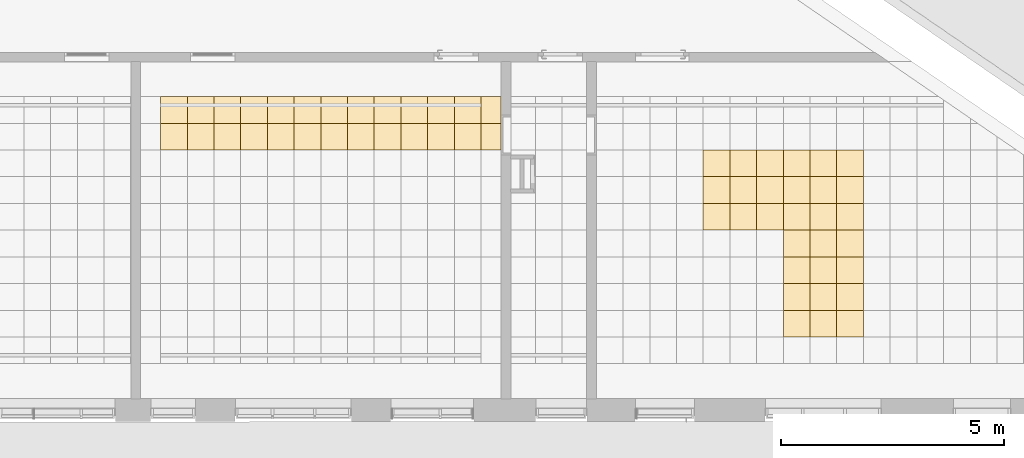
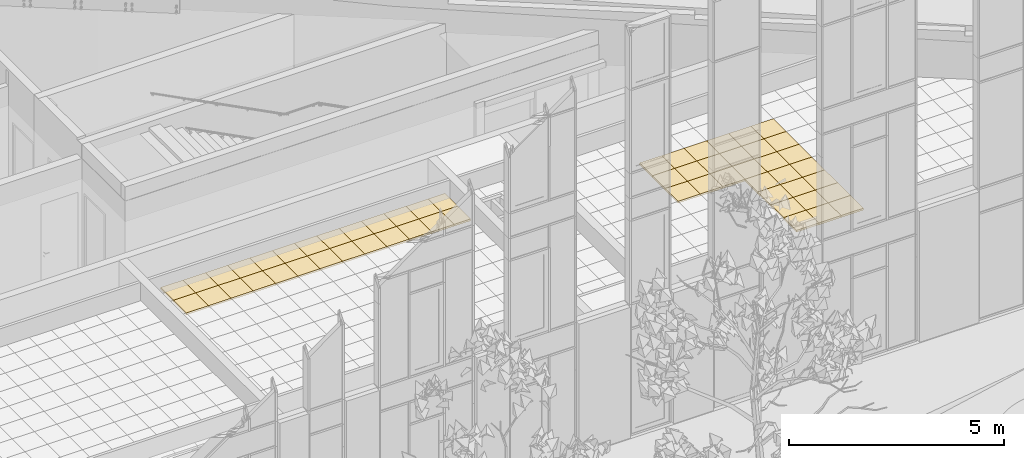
# One storey, part 197 of 246: 56 coverings.
"""IFC2X3 building model written with IfcOpenShell, lengths in millimetres."""

import ifcopenshell
import ifcopenshell.guid

model = None  # the IFC model being written
_history = None  # IfcOwnerHistory: only IFC2X3 demands one
_inside = {}  # id of a spatial element -> (the spatial element, [elements in it])
_under = {}  # id of a project, library or spatial element -> (it, [spatial elements below it])
_declared = {}  # id of a project -> (the project, [libraries it declares])
_typed = {}  # id of a type object -> (the type object, [elements of that type])
_made_of = {}  # id of a material, layer set ... -> (it, [elements and type objects made of it])


def new_model(schema):
    """Start an empty IFC model of exactly this schema.

    Asked for "IFC4X3", IfcOpenShell would pick the latest addendum, in which some entities
    have other attributes; the version numbers below select the first issue.
    IFC2X3 requires an IfcOwnerHistory on every rooted entity: one is made here for all.
    """
    global model, _history
    if schema == "IFC4X3":
        model = ifcopenshell.file(schema_version=(4, 3, 0, 0))
    else:
        model = ifcopenshell.file(schema=schema)
    _inside.clear()
    _under.clear()
    _declared.clear()
    _typed.clear()
    _made_of.clear()
    _history = None
    if model.schema == "IFC2X3":
        org = make("IfcOrganization", Name="unknown")
        user = make(
            "IfcPersonAndOrganization",
            ThePerson=make("IfcPerson", FamilyName="unknown"),
            TheOrganization=org,
        )
        app = make(
            "IfcApplication",
            ApplicationDeveloper=org,
            Version="unknown",
            ApplicationFullName="unknown",
            ApplicationIdentifier="unknown",
        )
        _history = make(
            "IfcOwnerHistory",
            OwningUser=user,
            OwningApplication=app,
            ChangeAction="ADDED",
            CreationDate=0,
        )
    return model


def make(cls, **values):
    """One entity of the class cls with the attributes given. An attribute that is None is left unset."""
    return model.create_entity(
        cls, **{name: value for name, value in values.items() if value is not None}
    )


def entity(cls, *values):
    """Any entity or typed value of the class cls, its attributes in the order of the schema. None: left unset."""
    e = model.create_entity(cls)
    for i, value in enumerate(values):
        if value is not None:
            e[i] = value
    return e


def rooted(cls, **values):
    """An entity with a GlobalId (a new one), such as an element, a storey or a relation."""
    return make(cls, GlobalId=ifcopenshell.guid.new(), OwnerHistory=_history, **values)


def si_unit(unit_type, name, prefix=None):
    """IfcSIUnit, for example si_unit("LENGTHUNIT", "METRE", prefix="MILLI")."""
    return make("IfcSIUnit", UnitType=unit_type, Prefix=prefix, Name=name)


def converted_unit(unit_type, name, factor, base, dimensions=None, offset=None):
    """IfcConversionBasedUnit, such as the inch: factor (a typed value) times the base unit."""
    return make(
        "IfcConversionBasedUnit"
        if offset is None
        else "IfcConversionBasedUnitWithOffset",
        ConversionOffset=offset,
        Dimensions=None
        if dimensions is None
        else entity("IfcDimensionalExponents", *dimensions),
        UnitType=unit_type,
        Name=name,
        ConversionFactor=make(
            "IfcMeasureWithUnit", ValueComponent=factor, UnitComponent=base
        ),
    )


def derived_unit(unit_type, elements):
    """IfcDerivedUnit: a product of units, each with its exponent."""
    return make(
        "IfcDerivedUnit",
        Elements=[
            make("IfcDerivedUnitElement", Unit=unit, Exponent=power)
            for unit, power in elements
        ],
        UnitType=unit_type,
    )


def money_unit(currency):
    """IfcMonetaryUnit."""
    return make("IfcMonetaryUnit", Currency=currency)


def assignment(units):
    """IfcUnitAssignment: the units of a project."""
    return None if units is None else make("IfcUnitAssignment", Units=units)


def point(xyz):
    """IfcCartesianPoint."""
    return None if xyz is None else make("IfcCartesianPoint", Coordinates=xyz)


def direction(xyz):
    """IfcDirection."""
    return None if xyz is None else make("IfcDirection", DirectionRatios=xyz)


def frame(location, z_axis=None, x_axis=None):
    """IfcAxis2Placement3D, a coordinate frame: its origin and axes. An axis left out is left unset."""
    return make(
        "IfcAxis2Placement3D",
        Location=point(location),
        Axis=direction(z_axis),
        RefDirection=direction(x_axis),
    )


def origin_with_axes():
    """The frame at (0, 0, 0) with the z axis (0, 0, 1) and the x axis (1, 0, 0) written out."""
    return frame((0.0, 0.0, 0.0), z_axis=(0.0, 0.0, 1.0), x_axis=(1.0, 0.0, 0.0))


def place(relative_to, where):
    """IfcLocalPlacement: puts the frame where relative to a parent placement (None: the world)."""
    return make(
        "IfcLocalPlacement", PlacementRelTo=relative_to, RelativePlacement=where
    )


def context(
    kind, dimensions, precision=None, world=None, true_north=None, identifier=None
):
    """IfcGeometricRepresentationContext, for example the 3D "Model" context."""
    return make(
        "IfcGeometricRepresentationContext",
        ContextIdentifier=identifier,
        ContextType=kind,
        CoordinateSpaceDimension=dimensions,
        Precision=precision,
        WorldCoordinateSystem=world,
        TrueNorth=true_north,
    )


def subcontext(parent, identifier, kind, view, scale=None):
    """IfcGeometricRepresentationSubContext, for example "Body" below "Model"."""
    return make(
        "IfcGeometricRepresentationSubContext",
        ContextIdentifier=identifier,
        ContextType=kind,
        ParentContext=parent,
        TargetScale=scale,
        TargetView=view,
    )


def project(units=None, contexts=None):
    """IfcProject with its units and contexts."""
    return rooted(
        "IfcProject",
        Name="project",
        RepresentationContexts=contexts,
        UnitsInContext=assignment(units),
    )


def spatial(cls, under=None, at=None, **own):
    """A site, building, storey or space (cls), placed at a placement, below another one or the project."""
    s = rooted(cls, ObjectPlacement=at, **own)
    if under is not None:
        _under.setdefault(under.id(), (under, []))[1].append(s)
    return s


def faces_of(points, faces, orient=None, outer=None):
    """IfcFace entities. A face is a list of loops; a loop is a list of indices into points, from 0.

    orient and outer hold one flag for each loop. By default every Orientation is true, the
    first loop of a face is its IfcFaceOuterBound and the others are IfcFaceBound.
    """
    made = []
    for i, loops in enumerate(faces):
        bounds = []
        for j, loop in enumerate(loops):
            is_outer = j == 0 if outer is None else outer[i][j]
            bounds.append(
                make(
                    "IfcFaceOuterBound" if is_outer else "IfcFaceBound",
                    Bound=make("IfcPolyLoop", Polygon=[points[k] for k in loop]),
                    Orientation=True if orient is None else orient[i][j],
                )
            )
        made.append(make("IfcFace", Bounds=bounds))
    return made


def faceted_brep(points, faces, orient=None, outer=None, voids=None):
    """IfcFacetedBrep: a solid bounded by flat faces; with voids (closed shells), ...WithVoids."""
    shared = [point(p) for p in points]
    hull = make("IfcClosedShell", CfsFaces=faces_of(shared, faces, orient, outer))
    if voids is None:
        return make("IfcFacetedBrep", Outer=hull)
    return make(
        "IfcFacetedBrepWithVoids",
        Outer=hull,
        Voids=[
            make(cls, CfsFaces=faces_of(shared, fs, o, b)) for cls, fs, o, b in voids
        ],
    )


def shape(context_of_items, identifier, shape_type, items):
    """IfcShapeRepresentation: the items that make up one representation, for example the "Body"."""
    return make(
        "IfcShapeRepresentation",
        ContextOfItems=context_of_items,
        RepresentationIdentifier=identifier,
        RepresentationType=shape_type,
        Items=items,
    )


def material(Name=None, Category=None):
    """IfcMaterial."""
    return make("IfcMaterial", Name=Name, Category=Category)


def material_list(materials):
    """IfcMaterialList."""
    return make("IfcMaterialList", Materials=materials)


def made_of(thing, what):
    """Note that an element or type object is made of a material, layer set ...; save() writes the relation."""
    if what is not None:
        _made_of.setdefault(what.id(), (what, []))[1].append(thing)
    return thing


def type_object(cls, material=None, **own):
    """A type object (cls), such as IfcWallType, which elements share."""
    return made_of(rooted(cls, **own), material)


def element(
    cls,
    number,
    at=None,
    inside=None,
    cuts=None,
    type_object=None,
    material=None,
    context=None,
    identifier="Body",
    shape_type=None,
    held_by="IfcProductDefinitionShape",
    body=None,
    shapes=None,
    **own,
):
    """One element of the class cls, such as IfcWall. Its Tag is "e" and its number.

    at: its placement. inside: the storey or other place that contains it. cuts: it is an
    opening in that element (IfcRelVoidsElement). A single representation is given by context,
    identifier, shape_type and body (its items); several are given by shapes. held_by: the class
    of the entity that holds the representations. save() writes the other relations.
    """
    e = rooted(cls, Tag="e%d" % number, ObjectPlacement=at, **own)
    if body is not None:
        shapes = [shape(context, identifier, shape_type, body)]
    if shapes is not None:
        e.Representation = make(held_by, Representations=shapes)
    if inside is not None:
        _inside.setdefault(inside.id(), (inside, []))[1].append(e)
    if cuts is not None:
        rooted(
            "IfcRelVoidsElement", RelatingBuildingElement=cuts, RelatedOpeningElement=e
        )
    if type_object is not None:
        _typed.setdefault(type_object.id(), (type_object, []))[1].append(e)
    return made_of(e, material)


def aggregate(whole, parts):
    """IfcRelAggregates: a whole, such as a stair, and the parts it consists of."""
    return rooted("IfcRelAggregates", RelatingObject=whole, RelatedObjects=parts)


def save(model, path):
    """Write the relations noted so far, then the file.

    IfcRelAggregates (storeys below a building ...), IfcRelContainedInSpatialStructure (elements
    in a storey), IfcRelDefinesByType, IfcRelAssociatesMaterial and IfcRelDeclares: one each for
    every whole, place, type object, material and project.
    """
    for whole, parts in _under.values():
        aggregate(whole, parts)
    for where, things in _inside.values():
        rooted(
            "IfcRelContainedInSpatialStructure",
            RelatedElements=things,
            RelatingStructure=where,
        )
    for kind, things in _typed.values():
        rooted("IfcRelDefinesByType", RelatedObjects=things, RelatingType=kind)
    for what, things in _made_of.values():
        rooted("IfcRelAssociatesMaterial", RelatedObjects=things, RelatingMaterial=what)
    for by, libraries in _declared.values():
        rooted("IfcRelDeclares", RelatingContext=by, RelatedDefinitions=libraries)
    model.write(path)


model = new_model("IFC2X3")

# Units and contexts
model_context = context("Model", 3, precision=0.01, world=origin_with_axes(), true_north=direction((0.0, 1.0)))
body_context = subcontext(model_context, "Body", "Model", "MODEL_VIEW")
ifc_project = project(units=[si_unit("LENGTHUNIT", "METRE", prefix="MILLI"), si_unit("AREAUNIT", "SQUARE_METRE"), si_unit("VOLUMEUNIT", "CUBIC_METRE"), converted_unit("PLANEANGLEUNIT", "DEGREE", entity("IfcPlaneAngleMeasure", 0.0174532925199), si_unit("PLANEANGLEUNIT", "RADIAN"), dimensions=[0, 0, 0, 0, 0, 0, 0]), si_unit("SOLIDANGLEUNIT", "STERADIAN"), money_unit("EUR"), converted_unit("TIMEUNIT", "Year", entity("IfcTimeMeasure", 31556926.0), si_unit("TIMEUNIT", "SECOND"), dimensions=[0, 0, 1, 0, 0, 0, 0]), si_unit("MASSUNIT", "GRAM", prefix="KILO"), si_unit("THERMODYNAMICTEMPERATUREUNIT", "DEGREE_CELSIUS"), si_unit("LUMINOUSINTENSITYUNIT", "LUMEN"), si_unit("ENERGYUNIT", "JOULE", prefix="MEGA"), derived_unit("THERMALCONDUCTANCEUNIT", [(si_unit("POWERUNIT", "WATT"), 1), (si_unit("LENGTHUNIT", "METRE"), -1), (si_unit("THERMODYNAMICTEMPERATUREUNIT", "KELVIN"), -1)]), derived_unit("SPECIFICHEATCAPACITYUNIT", [(si_unit("ENERGYUNIT", "JOULE"), 1), (si_unit("MASSUNIT", "GRAM", prefix="KILO"), -1), (si_unit("THERMODYNAMICTEMPERATUREUNIT", "KELVIN"), -1)]), derived_unit("MASSDENSITYUNIT", [(si_unit("MASSUNIT", "GRAM", prefix="KILO"), 1), (si_unit("VOLUMEUNIT", "CUBIC_METRE"), -1)])], contexts=[model_context])

# Site, building, storey
site_placement = place(None, origin_with_axes())
site = spatial("IfcSite", under=ifc_project, at=site_placement, Name="L.Koidula tn 11b", CompositionType="ELEMENT")
building_placement = place(site_placement, origin_with_axes())
building = spatial("IfcBuilding", under=site, at=building_placement, Name="Rakvere Riigigümnaasium", CompositionType="ELEMENT")
storey_placement = place(building_placement, origin_with_axes())
storey = spatial("IfcBuildingStorey", under=building, at=storey_placement, Name="1.korrus 0,00", CompositionType="ELEMENT", Elevation=0.0)

# Coverings
ifc_material_1 = material(Name="Karkass")
ifc_material_2 = material(Name="Kipsplaat")
ifc_material_list = material_list([ifc_material_1, ifc_material_2])
covering_type = type_object("IfcCoveringType", Name="SA-LV-Kips-moodul 55", PredefinedType="CEILING")
for number, where, z_axis, x_axis, name in (
    (1, (75319.7152091, 11090.4535941, 2750.0), (0.0, 0.0, 1.0), (1.0, 0.0, 0.0), "L-03"),
    (2, (75319.7152091, 11690.4535941, 2750.0), (0.0, 0.0, 1.0), (1.0, 0.0, 0.0), "L-03"),
    (3, (76519.7151574, 11090.4535941, 2750.0), (0.0, 0.0, 1.0), (1.0, 0.0, 0.0), "L-03"),
    (4, (76519.7151574, 11690.4535941, 2750.0), (0.0, 0.0, 1.0), (1.0, 0.0, 0.0), "L-03"),
):
    element("IfcCovering", number, at=place(storey_placement, frame(where, z_axis=z_axis, x_axis=x_axis)), inside=storey, type_object=covering_type, material=ifc_material_list, Name=name, PredefinedType="CEILING", context=body_context, shape_type="Brep", body=[
        faceted_brep([(599.999948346, 0.0, 12.5), (599.999948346, 0.0, 54.5), (0.0, 0.0, 54.5), (0.0, 0.0, 12.5), (599.999948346, 600.0, 12.5), (599.999948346, 600.0, 54.5), (0.0, 600.0, 54.5), (0.0, 600.0, 12.5)], [[[0, 1, 2, 3]], [[4, 5, 1, 0]], [[2, 1, 5, 6]], [[3, 2, 6, 7]], [[3, 7, 4, 0]], [[7, 6, 5, 4]]]),
        faceted_brep([(0.0, 0.0, 0.0), (599.999948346, 0.0, 0.0), (599.999948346, 0.0, 12.5), (0.0, 0.0, 12.5), (0.0, 600.0, 0.0), (599.999948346, 600.0, 0.0), (599.999948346, 600.0, 12.5), (0.0, 600.0, 12.5)], [[[0, 1, 2, 3]], [[0, 4, 5, 1]], [[1, 5, 6, 2]], [[3, 2, 6, 7]], [[4, 0, 3, 7]], [[5, 4, 7, 6]]]),
    ])
for number, where, z_axis, x_axis, name in (
    (5, (75919.7151574, 11090.4535941, 2750.0), (0.0, 0.0, 1.0), (1.0, 0.0, 0.0), "L-03"),
    (6, (75919.7151574, 11690.4535941, 2750.0), (0.0, 0.0, 1.0), (1.0, 0.0, 0.0), "L-03"),
):
    element("IfcCovering", number, at=place(storey_placement, frame(where, z_axis=z_axis, x_axis=x_axis)), inside=storey, type_object=covering_type, material=ifc_material_list, Name=name, PredefinedType="CEILING", context=body_context, shape_type="Brep", body=[
        faceted_brep([(600.0, 0.0, 12.5), (600.0, 0.0, 54.5), (0.0, 0.0, 54.5), (0.0, 0.0, 12.5), (600.0, 600.0, 12.5), (600.0, 600.0, 54.5), (0.0, 600.0, 54.5), (0.0, 600.0, 12.5)], [[[0, 1, 2, 3]], [[4, 5, 1, 0]], [[2, 1, 5, 6]], [[3, 2, 6, 7]], [[3, 7, 4, 0]], [[7, 6, 5, 4]]]),
        faceted_brep([(0.0, 0.0, 0.0), (600.0, 0.0, 0.0), (600.0, 0.0, 12.5), (0.0, 0.0, 12.5), (0.0, 600.0, 0.0), (600.0, 600.0, 0.0), (600.0, 600.0, 12.5), (0.0, 600.0, 12.5)], [[[0, 1, 2, 3]], [[0, 4, 5, 1]], [[1, 5, 6, 2]], [[3, 2, 6, 7]], [[4, 0, 3, 7]], [[5, 4, 7, 6]]]),
    ])
for number, where, z_axis, x_axis, name in (
    (7, (77719.7151058, 11090.4535941, 2750.0), (0.0, 0.0, 1.0), (1.0, 0.0, 0.0), "L-03"),
    (8, (77719.7151058, 11690.4535941, 2750.0), (0.0, 0.0, 1.0), (1.0, 0.0, 0.0), "L-03"),
):
    element("IfcCovering", number, at=place(storey_placement, frame(where, z_axis=z_axis, x_axis=x_axis)), inside=storey, type_object=covering_type, material=ifc_material_list, Name=name, PredefinedType="CEILING", context=body_context, shape_type="Brep", body=[
        faceted_brep([(599.999948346, 0.0, 12.5), (599.999948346, 0.0, 54.5), (0.0, 0.0, 54.5), (0.0, 0.0, 12.5), (599.999948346, 600.0, 12.5), (599.999948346, 600.0, 54.5), (0.0, 600.0, 54.5), (0.0, 600.0, 12.5)], [[[0, 1, 2, 3]], [[4, 5, 1, 0]], [[2, 1, 5, 6]], [[3, 2, 6, 7]], [[3, 7, 4, 0]], [[7, 6, 5, 4]]]),
        faceted_brep([(0.0, 0.0, 0.0), (599.999948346, 0.0, 0.0), (599.999948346, 0.0, 12.5), (0.0, 0.0, 12.5), (0.0, 600.0, 0.0), (599.999948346, 600.0, 0.0), (599.999948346, 600.0, 12.5), (0.0, 600.0, 12.5)], [[[0, 1, 2, 3]], [[0, 4, 5, 1]], [[1, 5, 6, 2]], [[3, 2, 6, 7]], [[4, 0, 3, 7]], [[5, 4, 7, 6]]]),
    ])
for number, where, z_axis, x_axis, name in (
    (9, (77119.7151058, 11090.4535941, 2750.0), (0.0, 0.0, 1.0), (1.0, 0.0, 0.0), "L-03"),
    (10, (77119.7151058, 11690.4535941, 2750.0), (0.0, 0.0, 1.0), (1.0, 0.0, 0.0), "L-03"),
):
    element("IfcCovering", number, at=place(storey_placement, frame(where, z_axis=z_axis, x_axis=x_axis)), inside=storey, type_object=covering_type, material=ifc_material_list, Name=name, PredefinedType="CEILING", context=body_context, shape_type="Brep", body=[
        faceted_brep([(600.0, 0.0, 12.5), (600.0, 0.0, 54.5), (0.0, 0.0, 54.5), (0.0, 0.0, 12.5), (600.0, 600.0, 12.5), (600.0, 600.0, 54.5), (0.0, 600.0, 54.5), (0.0, 600.0, 12.5)], [[[0, 1, 2, 3]], [[4, 5, 1, 0]], [[2, 1, 5, 6]], [[3, 2, 6, 7]], [[3, 7, 4, 0]], [[7, 6, 5, 4]]]),
        faceted_brep([(0.0, 0.0, 0.0), (600.0, 0.0, 0.0), (600.0, 0.0, 12.5), (0.0, 0.0, 12.5), (0.0, 600.0, 0.0), (600.0, 600.0, 0.0), (600.0, 600.0, 12.5), (0.0, 600.0, 12.5)], [[[0, 1, 2, 3]], [[0, 4, 5, 1]], [[1, 5, 6, 2]], [[3, 2, 6, 7]], [[4, 0, 3, 7]], [[5, 4, 7, 6]]]),
    ])
for number, where, z_axis, x_axis, name in (
    (11, (78919.7150541, 11090.4535941, 2750.0), (0.0, 0.0, 1.0), (1.0, 0.0, 0.0), "L-03"),
    (12, (78919.7150541, 11690.4535941, 2750.0), (0.0, 0.0, 1.0), (1.0, 0.0, 0.0), "L-03"),
):
    element("IfcCovering", number, at=place(storey_placement, frame(where, z_axis=z_axis, x_axis=x_axis)), inside=storey, type_object=covering_type, material=ifc_material_list, Name=name, PredefinedType="CEILING", context=body_context, shape_type="Brep", body=[
        faceted_brep([(599.999948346, 0.0, 12.5), (599.999948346, 0.0, 54.5), (0.0, 0.0, 54.5), (0.0, 0.0, 12.5), (599.999948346, 600.0, 12.5), (599.999948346, 600.0, 54.5), (0.0, 600.0, 54.5), (0.0, 600.0, 12.5)], [[[0, 1, 2, 3]], [[4, 5, 1, 0]], [[2, 1, 5, 6]], [[3, 2, 6, 7]], [[3, 7, 4, 0]], [[7, 6, 5, 4]]]),
        faceted_brep([(0.0, 0.0, 0.0), (599.999948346, 0.0, 0.0), (599.999948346, 0.0, 12.5), (0.0, 0.0, 12.5), (0.0, 600.0, 0.0), (599.999948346, 600.0, 0.0), (599.999948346, 600.0, 12.5), (0.0, 600.0, 12.5)], [[[0, 1, 2, 3]], [[0, 4, 5, 1]], [[1, 5, 6, 2]], [[3, 2, 6, 7]], [[4, 0, 3, 7]], [[5, 4, 7, 6]]]),
    ])
for number, where, z_axis, x_axis, name in (
    (13, (78319.7150541, 11090.4535941, 2750.0), (0.0, 0.0, 1.0), (1.0, 0.0, 0.0), "L-03"),
    (14, (78319.7150541, 11690.4535941, 2750.0), (0.0, 0.0, 1.0), (1.0, 0.0, 0.0), "L-03"),
):
    element("IfcCovering", number, at=place(storey_placement, frame(where, z_axis=z_axis, x_axis=x_axis)), inside=storey, type_object=covering_type, material=ifc_material_list, Name=name, PredefinedType="CEILING", context=body_context, shape_type="Brep", body=[
        faceted_brep([(600.0, 0.0, 12.5), (600.0, 0.0, 54.5), (0.0, 0.0, 54.5), (0.0, 0.0, 12.5), (600.0, 600.0, 12.5), (600.0, 600.0, 54.5), (0.0, 600.0, 54.5), (0.0, 600.0, 12.5)], [[[0, 1, 2, 3]], [[4, 5, 1, 0]], [[2, 1, 5, 6]], [[3, 2, 6, 7]], [[3, 7, 4, 0]], [[7, 6, 5, 4]]]),
        faceted_brep([(0.0, 0.0, 0.0), (600.0, 0.0, 0.0), (600.0, 0.0, 12.5), (0.0, 0.0, 12.5), (0.0, 600.0, 0.0), (600.0, 600.0, 0.0), (600.0, 600.0, 12.5), (0.0, 600.0, 12.5)], [[[0, 1, 2, 3]], [[0, 4, 5, 1]], [[1, 5, 6, 2]], [[3, 2, 6, 7]], [[4, 0, 3, 7]], [[5, 4, 7, 6]]]),
    ])
for number, where, z_axis, x_axis, name in (
    (15, (80119.7150025, 11090.4535941, 2750.0), (0.0, 0.0, 1.0), (1.0, 0.0, 0.0), "L-03"),
    (16, (80119.7150025, 11690.4535941, 2750.0), (0.0, 0.0, 1.0), (1.0, 0.0, 0.0), "L-03"),
):
    element("IfcCovering", number, at=place(storey_placement, frame(where, z_axis=z_axis, x_axis=x_axis)), inside=storey, type_object=covering_type, material=ifc_material_list, Name=name, PredefinedType="CEILING", context=body_context, shape_type="Brep", body=[
        faceted_brep([(599.999948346, 0.0, 12.5), (599.999948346, 0.0, 54.5), (0.0, 0.0, 54.5), (0.0, 0.0, 12.5), (599.999948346, 600.0, 12.5), (599.999948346, 600.0, 54.5), (0.0, 600.0, 54.5), (0.0, 600.0, 12.5)], [[[0, 1, 2, 3]], [[4, 5, 1, 0]], [[2, 1, 5, 6]], [[3, 2, 6, 7]], [[3, 7, 4, 0]], [[7, 6, 5, 4]]]),
        faceted_brep([(0.0, 0.0, 0.0), (599.999948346, 0.0, 0.0), (599.999948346, 0.0, 12.5), (0.0, 0.0, 12.5), (0.0, 600.0, 0.0), (599.999948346, 600.0, 0.0), (599.999948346, 600.0, 12.5), (0.0, 600.0, 12.5)], [[[0, 1, 2, 3]], [[0, 4, 5, 1]], [[1, 5, 6, 2]], [[3, 2, 6, 7]], [[4, 0, 3, 7]], [[5, 4, 7, 6]]]),
    ])
for number, where, z_axis, x_axis, name in (
    (17, (79519.7150025, 11090.4535941, 2750.0), (0.0, 0.0, 1.0), (1.0, 0.0, 0.0), "L-03"),
    (18, (79519.7150025, 11690.4535941, 2750.0), (0.0, 0.0, 1.0), (1.0, 0.0, 0.0), "L-03"),
):
    element("IfcCovering", number, at=place(storey_placement, frame(where, z_axis=z_axis, x_axis=x_axis)), inside=storey, type_object=covering_type, material=ifc_material_list, Name=name, PredefinedType="CEILING", context=body_context, shape_type="Brep", body=[
        faceted_brep([(600.0, 0.0, 12.5), (600.0, 0.0, 54.5), (0.0, 0.0, 54.5), (0.0, 0.0, 12.5), (600.0, 600.0, 12.5), (600.0, 600.0, 54.5), (0.0, 600.0, 54.5), (0.0, 600.0, 12.5)], [[[0, 1, 2, 3]], [[4, 5, 1, 0]], [[2, 1, 5, 6]], [[3, 2, 6, 7]], [[3, 7, 4, 0]], [[7, 6, 5, 4]]]),
        faceted_brep([(0.0, 0.0, 0.0), (600.0, 0.0, 0.0), (600.0, 0.0, 12.5), (0.0, 0.0, 12.5), (0.0, 600.0, 0.0), (600.0, 600.0, 0.0), (600.0, 600.0, 12.5), (0.0, 600.0, 12.5)], [[[0, 1, 2, 3]], [[0, 4, 5, 1]], [[1, 5, 6, 2]], [[3, 2, 6, 7]], [[4, 0, 3, 7]], [[5, 4, 7, 6]]]),
    ])
for number, where, z_axis, x_axis, name in (
    (19, (81319.7149508, 11090.4535941, 2750.0), (0.0, 0.0, 1.0), (1.0, 0.0, 0.0), "L-03"),
    (20, (81319.7149508, 11690.4535941, 2750.0), (0.0, 0.0, 1.0), (1.0, 0.0, 0.0), "L-03"),
):
    element("IfcCovering", number, at=place(storey_placement, frame(where, z_axis=z_axis, x_axis=x_axis)), inside=storey, type_object=covering_type, material=ifc_material_list, Name=name, PredefinedType="CEILING", context=body_context, shape_type="Brep", body=[
        faceted_brep([(599.999948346, 0.0, 12.5), (599.999948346, 0.0, 54.5), (0.0, 0.0, 54.5), (0.0, 0.0, 12.5), (599.999948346, 600.0, 12.5), (599.999948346, 600.0, 54.5), (0.0, 600.0, 54.5), (0.0, 600.0, 12.5)], [[[0, 1, 2, 3]], [[4, 5, 1, 0]], [[2, 1, 5, 6]], [[3, 2, 6, 7]], [[3, 7, 4, 0]], [[7, 6, 5, 4]]]),
        faceted_brep([(0.0, 0.0, 0.0), (599.999948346, 0.0, 0.0), (599.999948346, 0.0, 12.5), (0.0, 0.0, 12.5), (0.0, 600.0, 0.0), (599.999948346, 600.0, 0.0), (599.999948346, 600.0, 12.5), (0.0, 600.0, 12.5)], [[[0, 1, 2, 3]], [[0, 4, 5, 1]], [[1, 5, 6, 2]], [[3, 2, 6, 7]], [[4, 0, 3, 7]], [[5, 4, 7, 6]]]),
    ])
for number, where, z_axis, x_axis, name in (
    (21, (80719.7149508, 11090.4535941, 2750.0), (0.0, 0.0, 1.0), (1.0, 0.0, 0.0), "L-03"),
    (22, (80719.7149508, 11690.4535941, 2750.0), (0.0, 0.0, 1.0), (1.0, 0.0, 0.0), "L-03"),
):
    element("IfcCovering", number, at=place(storey_placement, frame(where, z_axis=z_axis, x_axis=x_axis)), inside=storey, type_object=covering_type, material=ifc_material_list, Name=name, PredefinedType="CEILING", context=body_context, shape_type="Brep", body=[
        faceted_brep([(600.0, 0.0, 12.5), (600.0, 0.0, 54.5), (0.0, 0.0, 54.5), (0.0, 0.0, 12.5), (600.0, 600.0, 12.5), (600.0, 600.0, 54.5), (0.0, 600.0, 54.5), (0.0, 600.0, 12.5)], [[[0, 1, 2, 3]], [[4, 5, 1, 0]], [[2, 1, 5, 6]], [[3, 2, 6, 7]], [[3, 7, 4, 0]], [[7, 6, 5, 4]]]),
        faceted_brep([(0.0, 0.0, 0.0), (600.0, 0.0, 0.0), (600.0, 0.0, 12.5), (0.0, 0.0, 12.5), (0.0, 600.0, 0.0), (600.0, 600.0, 0.0), (600.0, 600.0, 12.5), (0.0, 600.0, 12.5)], [[[0, 1, 2, 3]], [[0, 4, 5, 1]], [[1, 5, 6, 2]], [[3, 2, 6, 7]], [[4, 0, 3, 7]], [[5, 4, 7, 6]]]),
    ])
for number, where, z_axis, x_axis, name in (
    (23, (82519.7148992, 11090.4535941, 2750.0), (0.0, 0.0, 1.0), (1.0, 0.0, 0.0), "L-03"),
    (24, (82519.7148992, 11690.4535941, 2750.0), (0.0, 0.0, 1.0), (1.0, 0.0, 0.0), "L-03"),
):
    element("IfcCovering", number, at=place(storey_placement, frame(where, z_axis=z_axis, x_axis=x_axis)), inside=storey, type_object=covering_type, material=ifc_material_list, Name=name, PredefinedType="CEILING", context=body_context, shape_type="Brep", body=[
        faceted_brep([(450.341138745, 0.0, 12.5), (450.341138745, 0.0, 54.5), (0.0, 0.0, 54.5), (0.0, 0.0, 12.5), (450.341138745, 600.0, 12.5), (450.341138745, 600.0, 54.5), (0.0, 600.0, 54.5), (0.0, 600.0, 12.5)], [[[0, 1, 2, 3]], [[4, 5, 1, 0]], [[2, 1, 5, 6]], [[3, 2, 6, 7]], [[3, 7, 4, 0]], [[7, 6, 5, 4]]]),
        faceted_brep([(0.0, 0.0, 0.0), (450.341138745, 0.0, 0.0), (450.341138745, 0.0, 12.5), (0.0, 0.0, 12.5), (0.0, 600.0, 0.0), (450.341138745, 600.0, 0.0), (450.341138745, 600.0, 12.5), (0.0, 600.0, 12.5)], [[[0, 1, 2, 3]], [[0, 4, 5, 1]], [[1, 5, 6, 2]], [[3, 2, 6, 7]], [[4, 0, 3, 7]], [[5, 4, 7, 6]]]),
    ])
for number, where, z_axis, x_axis, name in (
    (25, (81919.7148992, 11090.4535941, 2750.0), (0.0, 0.0, 1.0), (1.0, 0.0, 0.0), "L-03"),
    (26, (81919.7148992, 11690.4535941, 2750.0), (0.0, 0.0, 1.0), (1.0, 0.0, 0.0), "L-03"),
):
    element("IfcCovering", number, at=place(storey_placement, frame(where, z_axis=z_axis, x_axis=x_axis)), inside=storey, type_object=covering_type, material=ifc_material_list, Name=name, PredefinedType="CEILING", context=body_context, shape_type="Brep", body=[
        faceted_brep([(600.0, 0.0, 12.5), (600.0, 0.0, 54.5), (0.0, 0.0, 54.5), (0.0, 0.0, 12.5), (600.0, 600.0, 12.5), (600.0, 600.0, 54.5), (0.0, 600.0, 54.5), (0.0, 600.0, 12.5)], [[[0, 1, 2, 3]], [[4, 5, 1, 0]], [[2, 1, 5, 6]], [[3, 2, 6, 7]], [[3, 7, 4, 0]], [[7, 6, 5, 4]]]),
        faceted_brep([(0.0, 0.0, 0.0), (600.0, 0.0, 0.0), (600.0, 0.0, 12.5), (0.0, 0.0, 12.5), (0.0, 600.0, 0.0), (600.0, 600.0, 0.0), (600.0, 600.0, 12.5), (0.0, 600.0, 12.5)], [[[0, 1, 2, 3]], [[0, 4, 5, 1]], [[1, 5, 6, 2]], [[3, 2, 6, 7]], [[4, 0, 3, 7]], [[5, 4, 7, 6]]]),
    ])
for number, where, z_axis, x_axis, name in (
    (27, (88109.8852417, 10490.4535941, 2750.0), (0.0, 0.0, 1.0), (1.0, 0.0, 0.0), "L-03"),
    (28, (88109.8852417, 9890.45359412, 2750.0), (0.0, 0.0, 1.0), (1.0, 0.0, 0.0), "L-03"),
    (29, (88109.8852417, 9290.45359412, 2750.0), (0.0, 0.0, 1.0), (1.0, 0.0, 0.0), "L-03"),
):
    element("IfcCovering", number, at=place(storey_placement, frame(where, z_axis=z_axis, x_axis=x_axis)), inside=storey, type_object=covering_type, material=ifc_material_list, Name=name, PredefinedType="CEILING", context=body_context, shape_type="Brep", body=[
        faceted_brep([(599.999948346, 0.0, 12.5), (599.999948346, 0.0, 54.5), (0.0, 0.0, 54.5), (0.0, 0.0, 12.5), (599.999948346, 600.0, 12.5), (599.999948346, 600.0, 54.5), (0.0, 600.0, 54.5), (0.0, 600.0, 12.5)], [[[0, 1, 2, 3]], [[4, 5, 1, 0]], [[2, 1, 5, 6]], [[3, 2, 6, 7]], [[3, 7, 4, 0]], [[7, 6, 5, 4]]]),
        faceted_brep([(0.0, 0.0, 0.0), (599.999948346, 0.0, 0.0), (599.999948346, 0.0, 12.5), (0.0, 0.0, 12.5), (0.0, 600.0, 0.0), (599.999948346, 600.0, 0.0), (599.999948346, 600.0, 12.5), (0.0, 600.0, 12.5)], [[[0, 1, 2, 3]], [[0, 4, 5, 1]], [[1, 5, 6, 2]], [[3, 2, 6, 7]], [[4, 0, 3, 7]], [[5, 4, 7, 6]]]),
    ])
for number, where, z_axis, x_axis, name in (
    (30, (87509.8852417, 9290.45359412, 2750.0), (0.0, 0.0, 1.0), (1.0, 0.0, 0.0), "L-03"),
    (31, (87509.8852417, 9890.45359412, 2750.0), (0.0, 0.0, 1.0), (1.0, 0.0, 0.0), "L-03"),
    (32, (87509.8852417, 10490.4535941, 2750.0), (0.0, 0.0, 1.0), (1.0, 0.0, 0.0), "L-03"),
):
    element("IfcCovering", number, at=place(storey_placement, frame(where, z_axis=z_axis, x_axis=x_axis)), inside=storey, type_object=covering_type, material=ifc_material_list, Name=name, PredefinedType="CEILING", context=body_context, shape_type="Brep", body=[
        faceted_brep([(600.0, 0.0, 12.5), (600.0, 0.0, 54.5), (0.0, 0.0, 54.5), (0.0, 0.0, 12.5), (600.0, 600.0, 12.5), (600.0, 600.0, 54.5), (0.0, 600.0, 54.5), (0.0, 600.0, 12.5)], [[[0, 1, 2, 3]], [[4, 5, 1, 0]], [[2, 1, 5, 6]], [[3, 2, 6, 7]], [[3, 7, 4, 0]], [[7, 6, 5, 4]]]),
        faceted_brep([(0.0, 0.0, 0.0), (600.0, 0.0, 0.0), (600.0, 0.0, 12.5), (0.0, 0.0, 12.5), (0.0, 600.0, 0.0), (600.0, 600.0, 0.0), (600.0, 600.0, 12.5), (0.0, 600.0, 12.5)], [[[0, 1, 2, 3]], [[0, 4, 5, 1]], [[1, 5, 6, 2]], [[3, 2, 6, 7]], [[4, 0, 3, 7]], [[5, 4, 7, 6]]]),
    ])
for number, where, z_axis, x_axis, name in (
    (33, (89309.88519, 10490.4535941, 2750.0), (0.0, 0.0, 1.0), (1.0, 0.0, 0.0), "L-03"),
    (34, (89309.88519, 9890.45359412, 2750.0), (0.0, 0.0, 1.0), (1.0, 0.0, 0.0), "L-03"),
    (35, (89309.88519, 9290.45359412, 2750.0), (0.0, 0.0, 1.0), (1.0, 0.0, 0.0), "L-03"),
    (36, (89309.88519, 8690.45359412, 2750.0), (0.0, 0.0, 1.0), (1.0, 0.0, 0.0), "L-03"),
    (37, (89309.88519, 8090.45359412, 2750.0), (0.0, 0.0, 1.0), (1.0, 0.0, 0.0), "L-03"),
    (38, (89309.88519, 7490.45359412, 2750.0), (0.0, 0.0, 1.0), (1.0, 0.0, 0.0), "L-03"),
    (39, (89309.88519, 6890.45359412, 2750.0), (0.0, 0.0, 1.0), (1.0, 0.0, 0.0), "L-03"),
):
    element("IfcCovering", number, at=place(storey_placement, frame(where, z_axis=z_axis, x_axis=x_axis)), inside=storey, type_object=covering_type, material=ifc_material_list, Name=name, PredefinedType="CEILING", context=body_context, shape_type="Brep", body=[
        faceted_brep([(599.999948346, 0.0, 12.5), (599.999948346, 0.0, 54.5), (0.0, 0.0, 54.5), (0.0, 0.0, 12.5), (599.999948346, 600.0, 12.5), (599.999948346, 600.0, 54.5), (0.0, 600.0, 54.5), (0.0, 600.0, 12.5)], [[[0, 1, 2, 3]], [[4, 5, 1, 0]], [[2, 1, 5, 6]], [[3, 2, 6, 7]], [[3, 7, 4, 0]], [[7, 6, 5, 4]]]),
        faceted_brep([(0.0, 0.0, 0.0), (599.999948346, 0.0, 0.0), (599.999948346, 0.0, 12.5), (0.0, 0.0, 12.5), (0.0, 600.0, 0.0), (599.999948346, 600.0, 0.0), (599.999948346, 600.0, 12.5), (0.0, 600.0, 12.5)], [[[0, 1, 2, 3]], [[0, 4, 5, 1]], [[1, 5, 6, 2]], [[3, 2, 6, 7]], [[4, 0, 3, 7]], [[5, 4, 7, 6]]]),
    ])
for number, where, z_axis, x_axis, name in (
    (40, (88709.88519, 9290.45359412, 2750.0), (0.0, 0.0, 1.0), (1.0, 0.0, 0.0), "L-03"),
    (41, (88709.88519, 9890.45359412, 2750.0), (0.0, 0.0, 1.0), (1.0, 0.0, 0.0), "L-03"),
    (42, (88709.88519, 10490.4535941, 2750.0), (0.0, 0.0, 1.0), (1.0, 0.0, 0.0), "L-03"),
):
    element("IfcCovering", number, at=place(storey_placement, frame(where, z_axis=z_axis, x_axis=x_axis)), inside=storey, type_object=covering_type, material=ifc_material_list, Name=name, PredefinedType="CEILING", context=body_context, shape_type="Brep", body=[
        faceted_brep([(600.0, 0.0, 12.5), (600.0, 0.0, 54.5), (0.0, 0.0, 54.5), (0.0, 0.0, 12.5), (600.0, 600.0, 12.5), (600.0, 600.0, 54.5), (0.0, 600.0, 54.5), (0.0, 600.0, 12.5)], [[[0, 1, 2, 3]], [[4, 5, 1, 0]], [[2, 1, 5, 6]], [[3, 2, 6, 7]], [[3, 7, 4, 0]], [[7, 6, 5, 4]]]),
        faceted_brep([(0.0, 0.0, 0.0), (600.0, 0.0, 0.0), (600.0, 0.0, 12.5), (0.0, 0.0, 12.5), (0.0, 600.0, 0.0), (600.0, 600.0, 0.0), (600.0, 600.0, 12.5), (0.0, 600.0, 12.5)], [[[0, 1, 2, 3]], [[0, 4, 5, 1]], [[1, 5, 6, 2]], [[3, 2, 6, 7]], [[4, 0, 3, 7]], [[5, 4, 7, 6]]]),
    ])
for number, where, z_axis, x_axis, name in (
    (43, (90509.8851384, 10490.4535941, 2750.0), (0.0, 0.0, 1.0), (1.0, 0.0, 0.0), "L-03"),
    (44, (90509.8851384, 9890.45359412, 2750.0), (0.0, 0.0, 1.0), (1.0, 0.0, 0.0), "L-03"),
    (45, (90509.8851384, 9290.45359412, 2750.0), (0.0, 0.0, 1.0), (1.0, 0.0, 0.0), "L-03"),
    (46, (90509.8851384, 8690.45359412, 2750.0), (0.0, 0.0, 1.0), (1.0, 0.0, 0.0), "L-03"),
    (47, (90509.8851384, 8090.45359412, 2750.0), (0.0, 0.0, 1.0), (1.0, 0.0, 0.0), "L-03"),
    (48, (90509.8851384, 7490.45359412, 2750.0), (0.0, 0.0, 1.0), (1.0, 0.0, 0.0), "L-03"),
    (49, (90509.8851384, 6890.45359412, 2750.0), (0.0, 0.0, 1.0), (1.0, 0.0, 0.0), "L-03"),
):
    element("IfcCovering", number, at=place(storey_placement, frame(where, z_axis=z_axis, x_axis=x_axis)), inside=storey, type_object=covering_type, material=ifc_material_list, Name=name, PredefinedType="CEILING", context=body_context, shape_type="Brep", body=[
        faceted_brep([(599.999948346, 0.0, 12.5), (599.999948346, 0.0, 54.5), (0.0, 0.0, 54.5), (0.0, 0.0, 12.5), (599.999948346, 600.0, 12.5), (599.999948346, 600.0, 54.5), (0.0, 600.0, 54.5), (0.0, 600.0, 12.5)], [[[0, 1, 2, 3]], [[4, 5, 1, 0]], [[2, 1, 5, 6]], [[3, 2, 6, 7]], [[3, 7, 4, 0]], [[7, 6, 5, 4]]]),
        faceted_brep([(0.0, 0.0, 0.0), (599.999948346, 0.0, 0.0), (599.999948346, 0.0, 12.5), (0.0, 0.0, 12.5), (0.0, 600.0, 0.0), (599.999948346, 600.0, 0.0), (599.999948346, 600.0, 12.5), (0.0, 600.0, 12.5)], [[[0, 1, 2, 3]], [[0, 4, 5, 1]], [[1, 5, 6, 2]], [[3, 2, 6, 7]], [[4, 0, 3, 7]], [[5, 4, 7, 6]]]),
    ])
for number, where, z_axis, x_axis, name in (
    (50, (89909.8851384, 7490.45359412, 2750.0), (0.0, 0.0, 1.0), (1.0, 0.0, 0.0), "L-03"),
    (51, (89909.8851384, 8090.45359412, 2750.0), (0.0, 0.0, 1.0), (1.0, 0.0, 0.0), "L-03"),
    (52, (89909.8851384, 8690.45359412, 2750.0), (0.0, 0.0, 1.0), (1.0, 0.0, 0.0), "L-03"),
    (53, (89909.8851384, 9290.45359412, 2750.0), (0.0, 0.0, 1.0), (1.0, 0.0, 0.0), "L-03"),
    (54, (89909.8851384, 9890.45359412, 2750.0), (0.0, 0.0, 1.0), (1.0, 0.0, 0.0), "L-03"),
    (55, (89909.8851384, 10490.4535941, 2750.0), (0.0, 0.0, 1.0), (1.0, 0.0, 0.0), "L-03"),
    (56, (89909.8851384, 6890.45359412, 2750.0), (0.0, 0.0, 1.0), (1.0, 0.0, 0.0), "L-03"),
):
    element("IfcCovering", number, at=place(storey_placement, frame(where, z_axis=z_axis, x_axis=x_axis)), inside=storey, type_object=covering_type, material=ifc_material_list, Name=name, PredefinedType="CEILING", context=body_context, shape_type="Brep", body=[
        faceted_brep([(600.0, 0.0, 12.5), (600.0, 0.0, 54.5), (0.0, 0.0, 54.5), (0.0, 0.0, 12.5), (600.0, 600.0, 12.5), (600.0, 600.0, 54.5), (0.0, 600.0, 54.5), (0.0, 600.0, 12.5)], [[[0, 1, 2, 3]], [[4, 5, 1, 0]], [[2, 1, 5, 6]], [[3, 2, 6, 7]], [[3, 7, 4, 0]], [[7, 6, 5, 4]]]),
        faceted_brep([(0.0, 0.0, 0.0), (600.0, 0.0, 0.0), (600.0, 0.0, 12.5), (0.0, 0.0, 12.5), (0.0, 600.0, 0.0), (600.0, 600.0, 0.0), (600.0, 600.0, 12.5), (0.0, 600.0, 12.5)], [[[0, 1, 2, 3]], [[0, 4, 5, 1]], [[1, 5, 6, 2]], [[3, 2, 6, 7]], [[4, 0, 3, 7]], [[5, 4, 7, 6]]]),
    ])

save(model, "model.ifc")
